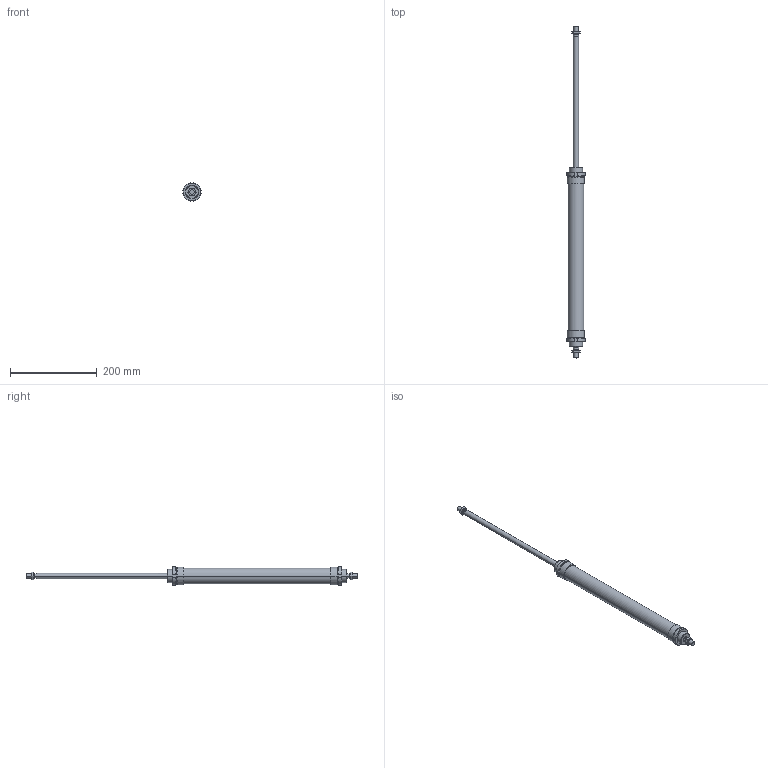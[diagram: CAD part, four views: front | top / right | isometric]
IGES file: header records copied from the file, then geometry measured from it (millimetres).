
Global section: file name: No Iges File Name specified; native system: AutoDesk Inventor R6.0; preprocessor: AutoDesk Inventor Iges Exporter R6.0; author: No Author specified; organization: No Organization specified; date: 20030403.072709; units: millimetre
Bounding box: 41.7 x 765 x 41.7 mm (x, y, z)
Volume: 463890.6 mm3; surface area: 101807.6 mm2
Topology: 6 solids, 6 shells, 182 faces, 424 edges, 264 vertices
Faces by surface type: plane 66, cone 52, bspline 30, cylinder 28, revolution 6
